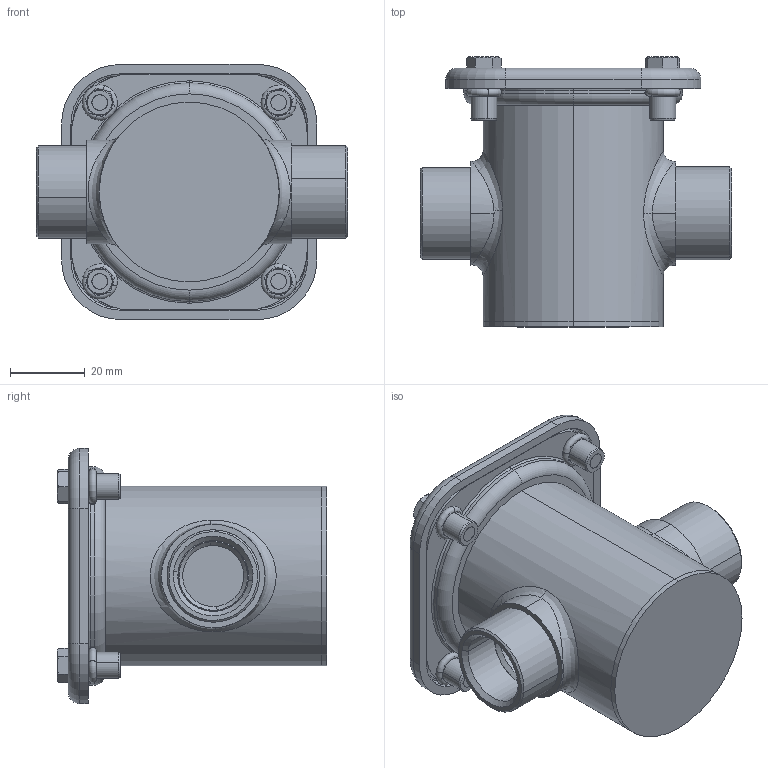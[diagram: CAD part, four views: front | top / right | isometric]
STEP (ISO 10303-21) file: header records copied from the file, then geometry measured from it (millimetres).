
FILE_DESCRIPTION (( 'STEP AP203' ), '1' );
FILE_NAME ('06L1811.STEP', '2024-01-17T08:30:31', ( '' ), ( '' ), 'SwSTEP 2.0', 'SolidWorks 2016', '' );
FILE_SCHEMA (( 'CONFIG_CONTROL_DESIGN' ));
Length unit declared in the file: millimetre
Products named in the file (18): 06G2001_06G1636; 06L1818_06G1644; 06L1816; 06D1904; 04G1647_05G1647; 06L1812; 06D1905; 06L1817; 06G1641; 06L1815_06G1643; 06N0508-01_06N0507; 06N0507; VITE TE M5 x 8_TE M5 x 14; 06L1811; 06L1813_06G1632; 06I1823; RIVETTO M5 x 2; 06L1814_06G1635
Assembly tree (23 placements, depth 4):
  06L1811
    06D1905
      06D1904
        06L1814_06G1635
        06G1641
        06N0508-01_06N0507
        06L1818_06G1644
        06L1815_06G1643
      RIVETTO M5 x 2  x4
    04G1647_05G1647
    06L1817
      06N0507
      06G2001_06G1636
      06L1812
        06L1813_06G1632
        06I1823
    VITE TE M5 x 8_TE M5 x 14  x4
    06L1816
Bounding box: 83.5 x 72.4 x 68.5 mm (x, y, z)
Volume: 57267 mm3; surface area: 57471.9 mm2
Topology: 19 solids, 19 shells, 530 faces, 1236 edges, 762 vertices
Faces by surface type: plane 299, cylinder 119, cone 62, torus 42, bspline 8
Entity records: 13789 total; most frequent: CARTESIAN_POINT 4050, DIRECTION 1692, ORIENTED_EDGE 1536, EDGE_CURVE 768, AXIS2_PLACEMENT_3D 651, VERTEX_POINT 480, VECTOR 390, LINE 390
